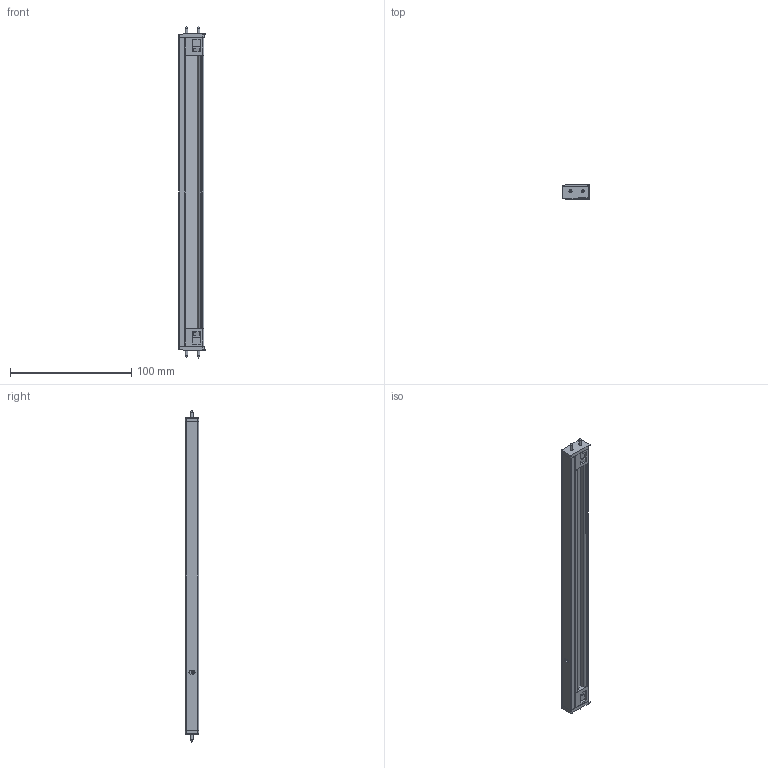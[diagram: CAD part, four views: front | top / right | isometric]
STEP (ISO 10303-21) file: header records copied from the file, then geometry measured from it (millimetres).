
FILE_DESCRIPTION (( 'STEP AP214' ), '1' );
FILE_NAME ('2000489 Kiton EDC 261 mm.STEP', '2022-11-09T06:54:36', ( '' ), ( '' ), 'SwSTEP 2.0', 'SolidWorks 2021', '' );
FILE_SCHEMA (( 'AUTOMOTIVE_DESIGN' ));
Length unit declared in the file: millimetre
Products named in the file (11): 2000489 Kiton EDC 261 mm; TESTATA_TESTATA DX; VITE TS TORX 2x6; 6201094 PROFILO LAMPADA_261 mm; STRIP REEL 180 LED METRO 5.25mm; TESTATA_TESTATA SX; sheet metal screws_din_Tapping screw DIN 7049-ST2.2x9.5-C-H-C; 6201093 Konsole rechts_261 mm; SUPPORTO TESTATA_SUPPORTO TESTATA DX; SENSORE PROG. PROXIMITY; SUPPORTO TESTATA_SUPPORTO TESTATA SX
Assembly tree (20 placements, depth 2):
  2000489 Kiton EDC 261 mm
    6201094 PROFILO LAMPADA_261 mm
    6201093 Konsole rechts_261 mm
    TESTATA_TESTATA DX
    TESTATA_TESTATA SX
    SUPPORTO TESTATA_SUPPORTO TESTATA DX
    SUPPORTO TESTATA_SUPPORTO TESTATA SX
    SENSORE PROG. PROXIMITY  x2
    STRIP REEL 180 LED METRO 5.25mm  x7
    sheet metal screws_din_Tapping screw DIN 7049-ST2.2x9.5-C-H-C  x4
    VITE TS TORX 2x6
Bounding box: 22.2 x 11.46 x 274.26 mm (x, y, z)
Volume: 30898.4 mm3; surface area: 46436.7 mm2
Topology: 20 solids, 20 shells, 1637 faces, 4482 edges, 2975 vertices
Faces by surface type: plane 1206, cylinder 317, bspline 83, cone 15, sphere 12, torus 4
Entity records: 40450 total; most frequent: CARTESIAN_POINT 13968, ORIENTED_EDGE 5342, DIRECTION 4299, EDGE_CURVE 2671, VECTOR 2003, LINE 2003, VERTEX_POINT 1774, AXIS2_PLACEMENT_3D 1148
